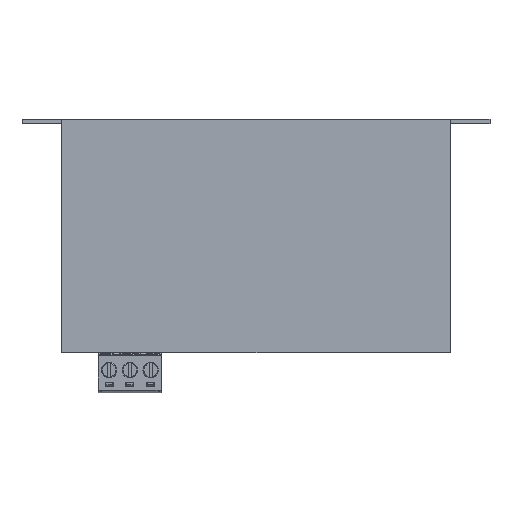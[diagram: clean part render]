
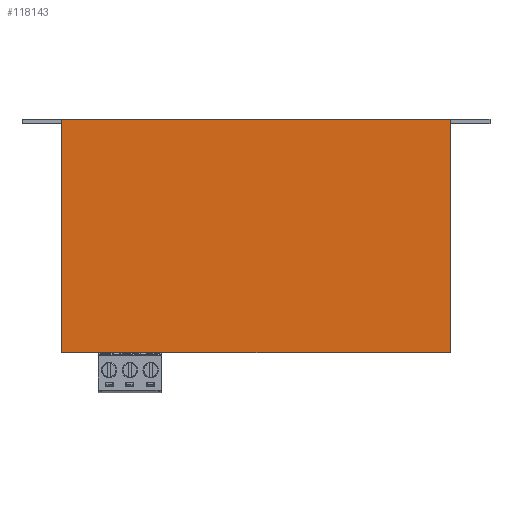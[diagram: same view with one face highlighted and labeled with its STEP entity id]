
A CAD part, top view. The second image highlights one B-rep face of the part: STEP entity #118143.
In plain terms, the highlighted planar face has unit normal (0, 0, 1).
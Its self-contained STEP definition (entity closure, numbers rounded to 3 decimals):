
#118066 = EDGE_CURVE('',#118067,#118069,#118071,.T.);
#118067 = VERTEX_POINT('',#118068);
#118068 = CARTESIAN_POINT('',(-1.25,0.,26.));
#118069 = VERTEX_POINT('',#118070);
#118070 = CARTESIAN_POINT('',(-1.25,57.1,26.));
#118071 = LINE('',#118072,#118073);
#118072 = CARTESIAN_POINT('',(-1.25,25.,26.));
#118073 = VECTOR('',#118074,1.);
#118074 = DIRECTION('',(0.,1.,0.));
#118143 = ADVANCED_FACE('',(#118144),#118169,.T.);
#118144 = FACE_BOUND('',#118145,.T.);
#118145 = EDGE_LOOP('',(#118146,#118147,#118155,#118163));
#118146 = ORIENTED_EDGE('',*,*,#118066,.F.);
#118147 = ORIENTED_EDGE('',*,*,#118148,.T.);
#118148 = EDGE_CURVE('',#118067,#118149,#118151,.T.);
#118149 = VERTEX_POINT('',#118150);
#118150 = CARTESIAN_POINT('',(93.75,0.,26.));
#118151 = LINE('',#118152,#118153);
#118152 = CARTESIAN_POINT('',(-11.,0.,26.));
#118153 = VECTOR('',#118154,1.);
#118154 = DIRECTION('',(1.,0.,0.));
#118155 = ORIENTED_EDGE('',*,*,#118156,.T.);
#118156 = EDGE_CURVE('',#118149,#118157,#118159,.T.);
#118157 = VERTEX_POINT('',#118158);
#118158 = CARTESIAN_POINT('',(93.75,57.1,26.));
#118159 = LINE('',#118160,#118161);
#118160 = CARTESIAN_POINT('',(93.75,-1.,26.));
#118161 = VECTOR('',#118162,1.);
#118162 = DIRECTION('',(0.,1.,0.));
#118163 = ORIENTED_EDGE('',*,*,#118164,.F.);
#118164 = EDGE_CURVE('',#118069,#118157,#118165,.T.);
#118165 = LINE('',#118166,#118167);
#118166 = CARTESIAN_POINT('',(-11.,57.1,26.));
#118167 = VECTOR('',#118168,1.);
#118168 = DIRECTION('',(1.,0.,0.));
#118169 = PLANE('',#118170);
#118170 = AXIS2_PLACEMENT_3D('',#118171,#118172,#118173);
#118171 = CARTESIAN_POINT('',(-11.,0.,26.));
#118172 = DIRECTION('',(0.,0.,1.));
#118173 = DIRECTION('',(1.,0.,0.));
